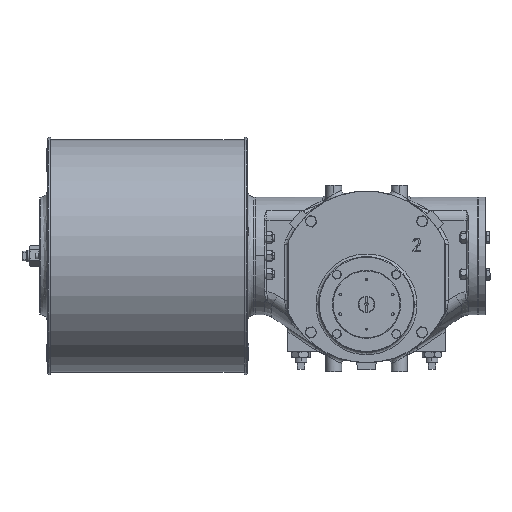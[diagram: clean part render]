
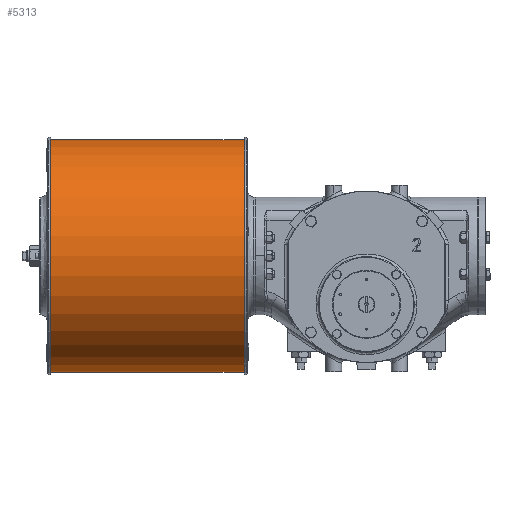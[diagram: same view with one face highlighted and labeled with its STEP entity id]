
A CAD part, top view. The second image highlights one B-rep face of the part: STEP entity #5313.
In plain terms, the highlighted cylindrical face has radius 177.8 mm (diameter 355.6 mm), a partial arc.
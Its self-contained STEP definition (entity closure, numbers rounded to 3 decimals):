
#876 = DIRECTION ( 'NONE',  ( 0., 1., 0. ) ) ;
#4610 = VECTOR ( 'NONE', #21123, 1000. ) ;
#5313 = ADVANCED_FACE ( 'NONE', ( #14970 ), #51610, .T. ) ;
#13214 = AXIS2_PLACEMENT_3D ( 'NONE', #40818, #51290, #23247 ) ;
#14506 = AXIS2_PLACEMENT_3D ( 'NONE', #47421, #52332, #876 ) ;
#14970 = FACE_OUTER_BOUND ( 'NONE', #59988, .T. ) ;
#16436 = VECTOR ( 'NONE', #27568, 1000. ) ;
#21123 = DIRECTION ( 'NONE',  ( 1., 0., 0. ) ) ;
#23247 = DIRECTION ( 'NONE',  ( 0., 1., 0. ) ) ;
#24937 = EDGE_CURVE ( 'NONE', #55671, #37118, #59821, .T. ) ;
#27568 = DIRECTION ( 'NONE',  ( 1., 0., 0. ) ) ;
#28323 = EDGE_CURVE ( 'NONE', #34346, #55671, #58703, .T. ) ;
#30034 = CARTESIAN_POINT ( 'NONE',  ( -480.523, -142.504, 2. ) ) ;
#32490 = EDGE_CURVE ( 'NONE', #50372, #37118, #43655, .T. ) ;
#32915 = ORIENTED_EDGE ( 'NONE', *, *, #28323, .T. ) ;
#34346 = VERTEX_POINT ( 'NONE', #54158 ) ;
#37118 = VERTEX_POINT ( 'NONE', #47598 ) ;
#40818 = CARTESIAN_POINT ( 'NONE',  ( -480.523, 35.296, 2. ) ) ;
#42090 = CARTESIAN_POINT ( 'NONE',  ( -480.523, 35.296, 2. ) ) ;
#43655 = LINE ( 'NONE', #54395, #4610 ) ;
#44099 = CARTESIAN_POINT ( 'NONE',  ( -480.523, 213.096, 2. ) ) ;
#45346 = ORIENTED_EDGE ( 'NONE', *, *, #24937, .T. ) ;
#46640 = CIRCLE ( 'NONE', #13214, 177.8 ) ;
#47327 = DIRECTION ( 'NONE',  ( 0., 1., 0. ) ) ;
#47421 = CARTESIAN_POINT ( 'NONE',  ( -185.523, 35.296, 2. ) ) ;
#47598 = CARTESIAN_POINT ( 'NONE',  ( -185.523, 213.096, 2. ) ) ;
#50372 = VERTEX_POINT ( 'NONE', #44099 ) ;
#51290 = DIRECTION ( 'NONE',  ( 1., 0., 0. ) ) ;
#51610 = CYLINDRICAL_SURFACE ( 'NONE', #60441, 177.8 ) ;
#52332 = DIRECTION ( 'NONE',  ( -1., 0., 0. ) ) ;
#54158 = CARTESIAN_POINT ( 'NONE',  ( -480.523, -142.504, 2. ) ) ;
#54395 = CARTESIAN_POINT ( 'NONE',  ( -480.523, 213.096, 2. ) ) ;
#54785 = ORIENTED_EDGE ( 'NONE', *, *, #32490, .F. ) ;
#55671 = VERTEX_POINT ( 'NONE', #56828 ) ;
#56828 = CARTESIAN_POINT ( 'NONE',  ( -185.523, -142.504, 2. ) ) ;
#58703 = LINE ( 'NONE', #30034, #16436 ) ;
#58768 = ORIENTED_EDGE ( 'NONE', *, *, #60422, .T. ) ;
#59821 = CIRCLE ( 'NONE', #14506, 177.8 ) ;
#59988 = EDGE_LOOP ( 'NONE', ( #58768, #32915, #45346, #54785 ) ) ;
#60422 = EDGE_CURVE ( 'NONE', #50372, #34346, #46640, .T. ) ;
#60441 = AXIS2_PLACEMENT_3D ( 'NONE', #42090, #60897, #47327 ) ;
#60897 = DIRECTION ( 'NONE',  ( 1., 0., 0. ) ) ;
